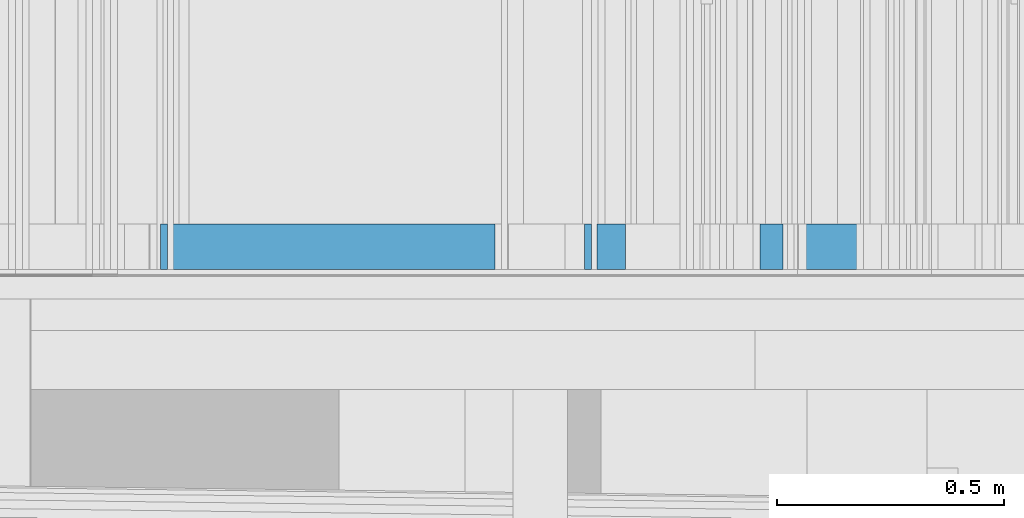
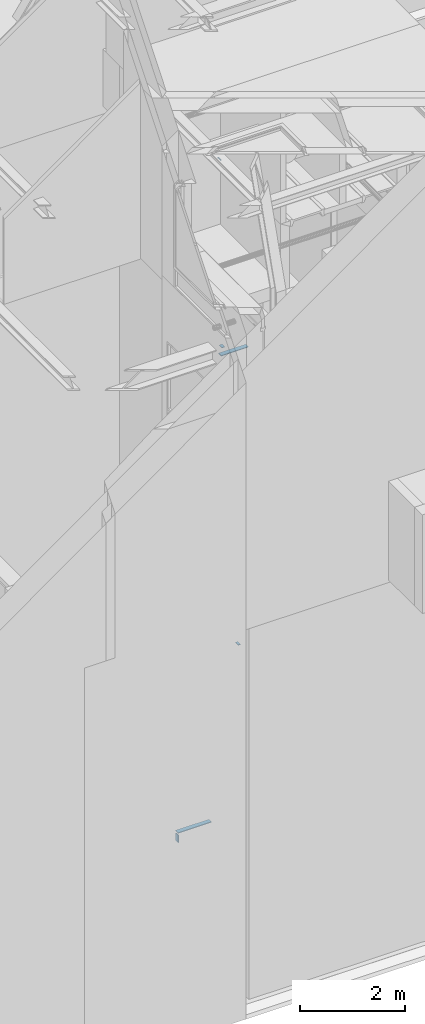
# One storey, part 178 of 583: 6 building element parts, 5 elements without a shape of their own.
"""IFC2X3 building model written with IfcOpenShell, lengths in metres."""

import ifcopenshell
import ifcopenshell.guid

model = None  # the IFC model being written
_history = None  # IfcOwnerHistory: only IFC2X3 demands one
_inside = {}  # id of a spatial element -> (the spatial element, [elements in it])
_under = {}  # id of a project, library or spatial element -> (it, [spatial elements below it])
_declared = {}  # id of a project -> (the project, [libraries it declares])
_typed = {}  # id of a type object -> (the type object, [elements of that type])
_made_of = {}  # id of a material, layer set ... -> (it, [elements and type objects made of it])


def new_model(schema):
    """Start an empty IFC model of exactly this schema.

    Asked for "IFC4X3", IfcOpenShell would pick the latest addendum, in which some entities
    have other attributes; the version numbers below select the first issue.
    IFC2X3 requires an IfcOwnerHistory on every rooted entity: one is made here for all.
    """
    global model, _history
    if schema == "IFC4X3":
        model = ifcopenshell.file(schema_version=(4, 3, 0, 0))
    else:
        model = ifcopenshell.file(schema=schema)
    _inside.clear()
    _under.clear()
    _declared.clear()
    _typed.clear()
    _made_of.clear()
    _history = None
    if model.schema == "IFC2X3":
        org = make("IfcOrganization", Name="unknown")
        user = make(
            "IfcPersonAndOrganization",
            ThePerson=make("IfcPerson", FamilyName="unknown"),
            TheOrganization=org,
        )
        app = make(
            "IfcApplication",
            ApplicationDeveloper=org,
            Version="unknown",
            ApplicationFullName="unknown",
            ApplicationIdentifier="unknown",
        )
        _history = make(
            "IfcOwnerHistory",
            OwningUser=user,
            OwningApplication=app,
            ChangeAction="ADDED",
            CreationDate=0,
        )
    return model


def make(cls, **values):
    """One entity of the class cls with the attributes given. An attribute that is None is left unset."""
    return model.create_entity(
        cls, **{name: value for name, value in values.items() if value is not None}
    )


def entity(cls, *values):
    """Any entity or typed value of the class cls, its attributes in the order of the schema. None: left unset."""
    e = model.create_entity(cls)
    for i, value in enumerate(values):
        if value is not None:
            e[i] = value
    return e


def rooted(cls, **values):
    """An entity with a GlobalId (a new one), such as an element, a storey or a relation."""
    return make(cls, GlobalId=ifcopenshell.guid.new(), OwnerHistory=_history, **values)


def si_unit(unit_type, name, prefix=None):
    """IfcSIUnit, for example si_unit("LENGTHUNIT", "METRE", prefix="MILLI")."""
    return make("IfcSIUnit", UnitType=unit_type, Prefix=prefix, Name=name)


def converted_unit(unit_type, name, factor, base, dimensions=None, offset=None):
    """IfcConversionBasedUnit, such as the inch: factor (a typed value) times the base unit."""
    return make(
        "IfcConversionBasedUnit"
        if offset is None
        else "IfcConversionBasedUnitWithOffset",
        ConversionOffset=offset,
        Dimensions=None
        if dimensions is None
        else entity("IfcDimensionalExponents", *dimensions),
        UnitType=unit_type,
        Name=name,
        ConversionFactor=make(
            "IfcMeasureWithUnit", ValueComponent=factor, UnitComponent=base
        ),
    )


def derived_unit(unit_type, elements):
    """IfcDerivedUnit: a product of units, each with its exponent."""
    return make(
        "IfcDerivedUnit",
        Elements=[
            make("IfcDerivedUnitElement", Unit=unit, Exponent=power)
            for unit, power in elements
        ],
        UnitType=unit_type,
    )


def money_unit(currency):
    """IfcMonetaryUnit."""
    return make("IfcMonetaryUnit", Currency=currency)


def assignment(units):
    """IfcUnitAssignment: the units of a project."""
    return None if units is None else make("IfcUnitAssignment", Units=units)


def point(xyz):
    """IfcCartesianPoint."""
    return None if xyz is None else make("IfcCartesianPoint", Coordinates=xyz)


def direction(xyz):
    """IfcDirection."""
    return None if xyz is None else make("IfcDirection", DirectionRatios=xyz)


def frame(location, z_axis=None, x_axis=None):
    """IfcAxis2Placement3D, a coordinate frame: its origin and axes. An axis left out is left unset."""
    return make(
        "IfcAxis2Placement3D",
        Location=point(location),
        Axis=direction(z_axis),
        RefDirection=direction(x_axis),
    )


def frame_2d(location, x_axis=None):
    """IfcAxis2Placement2D, a coordinate frame in the plane: its origin and x axis."""
    return make(
        "IfcAxis2Placement2D", Location=point(location), RefDirection=direction(x_axis)
    )


def origin_with_axes():
    """The frame at (0, 0, 0) with the z axis (0, 0, 1) and the x axis (1, 0, 0) written out."""
    return frame((0.0, 0.0, 0.0), z_axis=(0.0, 0.0, 1.0), x_axis=(1.0, 0.0, 0.0))


def place(relative_to, where):
    """IfcLocalPlacement: puts the frame where relative to a parent placement (None: the world)."""
    return make(
        "IfcLocalPlacement", PlacementRelTo=relative_to, RelativePlacement=where
    )


def context(
    kind, dimensions, precision=None, world=None, true_north=None, identifier=None
):
    """IfcGeometricRepresentationContext, for example the 3D "Model" context."""
    return make(
        "IfcGeometricRepresentationContext",
        ContextIdentifier=identifier,
        ContextType=kind,
        CoordinateSpaceDimension=dimensions,
        Precision=precision,
        WorldCoordinateSystem=world,
        TrueNorth=true_north,
    )


def subcontext(parent, identifier, kind, view, scale=None):
    """IfcGeometricRepresentationSubContext, for example "Body" below "Model"."""
    return make(
        "IfcGeometricRepresentationSubContext",
        ContextIdentifier=identifier,
        ContextType=kind,
        ParentContext=parent,
        TargetScale=scale,
        TargetView=view,
    )


def project(units=None, contexts=None):
    """IfcProject with its units and contexts."""
    return rooted(
        "IfcProject",
        Name="project",
        RepresentationContexts=contexts,
        UnitsInContext=assignment(units),
    )


def spatial(cls, under=None, at=None, **own):
    """A site, building, storey or space (cls), placed at a placement, below another one or the project."""
    s = rooted(cls, ObjectPlacement=at, **own)
    if under is not None:
        _under.setdefault(under.id(), (under, []))[1].append(s)
    return s


def polyline(points):
    """IfcPolyline through the points."""
    return make("IfcPolyline", Points=[point(p) for p in points])


def profile(cls, at=None, kind="AREA", **sizes):
    """A parametric profile (cls). Its sizes go by their IFC names, for example OverallWidth=200.0."""
    return make(cls, ProfileType=kind, Position=at, **sizes)


def rectangle(**sizes):
    """IfcRectangleProfileDef."""
    return profile("IfcRectangleProfileDef", **sizes)


def outline(outer, holes=None, kind="AREA"):
    """IfcArbitraryClosedProfileDef: a profile drawn as a closed curve; with holes, ...WithVoids."""
    if holes is None:
        return make("IfcArbitraryClosedProfileDef", ProfileType=kind, OuterCurve=outer)
    return make(
        "IfcArbitraryProfileDefWithVoids",
        ProfileType=kind,
        OuterCurve=outer,
        InnerCurves=holes,
    )


def extrude(swept, where, along, depth):
    """IfcExtrudedAreaSolid: the profile swept, set in the frame where, extruded along a direction by depth."""
    return make(
        "IfcExtrudedAreaSolid",
        SweptArea=swept,
        Position=where,
        ExtrudedDirection=direction(along),
        Depth=depth,
    )


def shape(context_of_items, identifier, shape_type, items):
    """IfcShapeRepresentation: the items that make up one representation, for example the "Body"."""
    return make(
        "IfcShapeRepresentation",
        ContextOfItems=context_of_items,
        RepresentationIdentifier=identifier,
        RepresentationType=shape_type,
        Items=items,
    )


def material(Name=None, Category=None):
    """IfcMaterial."""
    return make("IfcMaterial", Name=Name, Category=Category)


def made_of(thing, what):
    """Note that an element or type object is made of a material, layer set ...; save() writes the relation."""
    if what is not None:
        _made_of.setdefault(what.id(), (what, []))[1].append(thing)
    return thing


def type_object(cls, material=None, **own):
    """A type object (cls), such as IfcWallType, which elements share."""
    return made_of(rooted(cls, **own), material)


def element(
    cls,
    number,
    at=None,
    inside=None,
    cuts=None,
    type_object=None,
    material=None,
    context=None,
    identifier="Body",
    shape_type=None,
    held_by="IfcProductDefinitionShape",
    body=None,
    shapes=None,
    **own,
):
    """One element of the class cls, such as IfcWall. Its Tag is "e" and its number.

    at: its placement. inside: the storey or other place that contains it. cuts: it is an
    opening in that element (IfcRelVoidsElement). A single representation is given by context,
    identifier, shape_type and body (its items); several are given by shapes. held_by: the class
    of the entity that holds the representations. save() writes the other relations.
    """
    e = rooted(cls, Tag="e%d" % number, ObjectPlacement=at, **own)
    if body is not None:
        shapes = [shape(context, identifier, shape_type, body)]
    if shapes is not None:
        e.Representation = make(held_by, Representations=shapes)
    if inside is not None:
        _inside.setdefault(inside.id(), (inside, []))[1].append(e)
    if cuts is not None:
        rooted(
            "IfcRelVoidsElement", RelatingBuildingElement=cuts, RelatedOpeningElement=e
        )
    if type_object is not None:
        _typed.setdefault(type_object.id(), (type_object, []))[1].append(e)
    return made_of(e, material)


def aggregate(whole, parts):
    """IfcRelAggregates: a whole, such as a stair, and the parts it consists of."""
    return rooted("IfcRelAggregates", RelatingObject=whole, RelatedObjects=parts)


def save(model, path):
    """Write the relations noted so far, then the file.

    IfcRelAggregates (storeys below a building ...), IfcRelContainedInSpatialStructure (elements
    in a storey), IfcRelDefinesByType, IfcRelAssociatesMaterial and IfcRelDeclares: one each for
    every whole, place, type object, material and project.
    """
    for whole, parts in _under.values():
        aggregate(whole, parts)
    for where, things in _inside.values():
        rooted(
            "IfcRelContainedInSpatialStructure",
            RelatedElements=things,
            RelatingStructure=where,
        )
    for kind, things in _typed.values():
        rooted("IfcRelDefinesByType", RelatedObjects=things, RelatingType=kind)
    for what, things in _made_of.values():
        rooted("IfcRelAssociatesMaterial", RelatedObjects=things, RelatingMaterial=what)
    for by, libraries in _declared.values():
        rooted("IfcRelDeclares", RelatingContext=by, RelatedDefinitions=libraries)
    model.write(path)


model = new_model("IFC2X3")

# Units and contexts
model_context = context("Model", 3, precision=1e-05, world=origin_with_axes(), true_north=direction((0.0, 1.0)))
body_context = subcontext(model_context, "Body", "Model", "MODEL_VIEW", scale=1.0)
ifc_project = project(units=[si_unit("LENGTHUNIT", "METRE"), si_unit("AREAUNIT", "SQUARE_METRE"), si_unit("VOLUMEUNIT", "CUBIC_METRE"), si_unit("ABSORBEDDOSEUNIT", "GRAY"), si_unit("AMOUNTOFSUBSTANCEUNIT", "MOLE"), si_unit("DOSEEQUIVALENTUNIT", "SIEVERT"), si_unit("ELECTRICCAPACITANCEUNIT", "FARAD"), si_unit("ELECTRICCHARGEUNIT", "COULOMB"), si_unit("ELECTRICCONDUCTANCEUNIT", "SIEMENS"), si_unit("ELECTRICCURRENTUNIT", "AMPERE"), si_unit("ELECTRICRESISTANCEUNIT", "OHM"), si_unit("ELECTRICVOLTAGEUNIT", "VOLT"), si_unit("ENERGYUNIT", "JOULE"), si_unit("FORCEUNIT", "NEWTON"), si_unit("FREQUENCYUNIT", "HERTZ"), si_unit("ILLUMINANCEUNIT", "LUX"), si_unit("INDUCTANCEUNIT", "HENRY"), si_unit("LUMINOUSFLUXUNIT", "LUMEN"), si_unit("LUMINOUSINTENSITYUNIT", "CANDELA"), si_unit("MAGNETICFLUXDENSITYUNIT", "TESLA"), si_unit("MAGNETICFLUXUNIT", "WEBER"), si_unit("MASSUNIT", "GRAM"), converted_unit("PLANEANGLEUNIT", "degree", entity("IfcReal", 0.0174532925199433), si_unit("PLANEANGLEUNIT", "RADIAN"), dimensions=[0, 0, 0, 0, 0, 0, 0]), si_unit("POWERUNIT", "WATT"), si_unit("PRESSUREUNIT", "PASCAL"), si_unit("RADIOACTIVITYUNIT", "BECQUEREL"), si_unit("SOLIDANGLEUNIT", "STERADIAN"), si_unit("THERMODYNAMICTEMPERATUREUNIT", "KELVIN"), si_unit("TIMEUNIT", "SECOND"), derived_unit("ACCELERATIONUNIT", [(si_unit("LENGTHUNIT", "METRE"), 1), (si_unit("TIMEUNIT", "SECOND"), -2)]), derived_unit("ANGULARVELOCITYUNIT", [(converted_unit("PLANEANGLEUNIT", "degree", entity("IfcReal", 0.0174532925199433), si_unit("PLANEANGLEUNIT", "RADIAN"), dimensions=[0, 0, 0, 0, 0, 0, 0]), 1), (si_unit("TIMEUNIT", "SECOND"), -1)]), derived_unit("CURVATUREUNIT", [(converted_unit("PLANEANGLEUNIT", "degree", entity("IfcReal", 0.0174532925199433), si_unit("PLANEANGLEUNIT", "RADIAN"), dimensions=[0, 0, 0, 0, 0, 0, 0]), 1), (si_unit("LENGTHUNIT", "METRE"), -1)]), derived_unit("DYNAMICVISCOSITYUNIT", [(si_unit("PRESSUREUNIT", "PASCAL"), 1), (si_unit("TIMEUNIT", "SECOND"), 1)]), derived_unit("HEATFLUXDENSITYUNIT", [(si_unit("POWERUNIT", "WATT"), 1), (si_unit("LENGTHUNIT", "METRE"), -2)]), derived_unit("HEATINGVALUEUNIT", [(si_unit("ENERGYUNIT", "JOULE"), 1), (si_unit("MASSUNIT", "GRAM"), -1)]), derived_unit("INTEGERCOUNTRATEUNIT", [(si_unit("TIMEUNIT", "SECOND"), -1)]), derived_unit("IONCONCENTRATIONUNIT", [(si_unit("MASSUNIT", "GRAM"), 1), (si_unit("VOLUMEUNIT", "CUBIC_METRE"), -1)]), derived_unit("ISOTHERMALMOISTURECAPACITYUNIT", [(si_unit("VOLUMEUNIT", "CUBIC_METRE"), 1), (si_unit("MASSUNIT", "GRAM"), -1)]), derived_unit("KINEMATICVISCOSITYUNIT", [(si_unit("AREAUNIT", "SQUARE_METRE"), 1), (si_unit("TIMEUNIT", "SECOND"), -1)]), derived_unit("LINEARFORCEUNIT", [(si_unit("FORCEUNIT", "NEWTON"), 1), (si_unit("LENGTHUNIT", "METRE"), -1)]), derived_unit("LINEARMOMENTUNIT", [(si_unit("FORCEUNIT", "NEWTON"), 1), (si_unit("LENGTHUNIT", "METRE"), -1)]), derived_unit("LINEARSTIFFNESSUNIT", [(si_unit("FORCEUNIT", "NEWTON"), 1), (si_unit("LENGTHUNIT", "METRE"), -1)]), derived_unit("LINEARVELOCITYUNIT", [(si_unit("LENGTHUNIT", "METRE"), 1), (si_unit("TIMEUNIT", "SECOND"), -1)]), derived_unit("LUMINOUSINTENSITYDISTRIBUTIONUNIT", [(si_unit("LUMINOUSINTENSITYUNIT", "CANDELA"), 1), (si_unit("LUMINOUSFLUXUNIT", "LUMEN"), -1)]), derived_unit("MASSDENSITYUNIT", [(si_unit("MASSUNIT", "GRAM"), 1), (si_unit("VOLUMEUNIT", "CUBIC_METRE"), -1)]), derived_unit("MASSFLOWRATEUNIT", [(si_unit("MASSUNIT", "GRAM"), 1), (si_unit("TIMEUNIT", "SECOND"), -1)]), derived_unit("MASSPERLENGTHUNIT", [(si_unit("MASSUNIT", "GRAM"), 1), (si_unit("LENGTHUNIT", "METRE"), -1)]), derived_unit("MODULUSOFELASTICITYUNIT", [(si_unit("FORCEUNIT", "NEWTON"), 1), (si_unit("AREAUNIT", "SQUARE_METRE"), -1)]), derived_unit("MODULUSOFLINEARSUBGRADEREACTIONUNIT", [(si_unit("FORCEUNIT", "NEWTON"), 1), (si_unit("LENGTHUNIT", "METRE"), -2)]), derived_unit("MODULUSOFROTATIONALSUBGRADEREACTIONUNIT", [(si_unit("FORCEUNIT", "NEWTON"), 1), (si_unit("LENGTHUNIT", "METRE"), 1)]), derived_unit("MODULUSOFSUBGRADEREACTIONUNIT", [(si_unit("FORCEUNIT", "NEWTON"), 1), (si_unit("VOLUMEUNIT", "CUBIC_METRE"), -1)]), derived_unit("MOISTUREDIFFUSIVITYUNIT", [(si_unit("VOLUMEUNIT", "CUBIC_METRE"), 1), (si_unit("TIMEUNIT", "SECOND"), -1)]), derived_unit("MOLECULARWEIGHTUNIT", [(si_unit("MASSUNIT", "GRAM"), 1), (si_unit("AMOUNTOFSUBSTANCEUNIT", "MOLE"), -1)]), derived_unit("PLANARFORCEUNIT", [(si_unit("FORCEUNIT", "NEWTON"), 1), (si_unit("LENGTHUNIT", "METRE"), -2)]), derived_unit("ROTATIONALFREQUENCYUNIT", [(si_unit("TIMEUNIT", "SECOND"), -1)]), derived_unit("ROTATIONALMASSUNIT", [(si_unit("MASSUNIT", "GRAM"), 1), (si_unit("LENGTHUNIT", "METRE"), 2)]), derived_unit("ROTATIONALSTIFFNESSUNIT", [(si_unit("FORCEUNIT", "NEWTON"), 1), (si_unit("LENGTHUNIT", "METRE"), 1), (converted_unit("PLANEANGLEUNIT", "degree", entity("IfcReal", 0.0174532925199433), si_unit("PLANEANGLEUNIT", "RADIAN"), dimensions=[0, 0, 0, 0, 0, 0, 0]), -1)]), derived_unit("SECTIONAREAINTEGRALUNIT", [(si_unit("LENGTHUNIT", "METRE"), 5)]), derived_unit("SECTIONMODULUSUNIT", [(si_unit("LENGTHUNIT", "METRE"), 3)]), derived_unit("SHEARMODULUSUNIT", [(si_unit("FORCEUNIT", "NEWTON"), 1), (si_unit("AREAUNIT", "SQUARE_METRE"), -1)]), derived_unit("SOUNDPOWERUNIT", [(si_unit("ENERGYUNIT", "JOULE"), 1), (si_unit("TIMEUNIT", "SECOND"), -1)]), derived_unit("SPECIFICHEATCAPACITYUNIT", [(si_unit("FORCEUNIT", "NEWTON"), 1), (si_unit("MASSUNIT", "GRAM"), -1), (si_unit("THERMODYNAMICTEMPERATUREUNIT", "KELVIN"), -1)]), derived_unit("TEMPERATUREGRADIENTUNIT", [(si_unit("THERMODYNAMICTEMPERATUREUNIT", "KELVIN"), 1), (si_unit("LENGTHUNIT", "METRE"), -1)]), derived_unit("THERMALADMITTANCEUNIT", [(si_unit("POWERUNIT", "WATT"), 1), (si_unit("AREAUNIT", "SQUARE_METRE"), -1), (si_unit("THERMODYNAMICTEMPERATUREUNIT", "KELVIN"), -1)]), derived_unit("THERMALCONDUCTANCEUNIT", [(si_unit("POWERUNIT", "WATT"), 1), (si_unit("LENGTHUNIT", "METRE"), -1), (si_unit("THERMODYNAMICTEMPERATUREUNIT", "KELVIN"), -1)]), derived_unit("THERMALEXPANSIONCOEFFICIENTUNIT", [(si_unit("THERMODYNAMICTEMPERATUREUNIT", "KELVIN"), -1)]), derived_unit("THERMALRESISTANCEUNIT", [(si_unit("AREAUNIT", "SQUARE_METRE"), 1), (si_unit("POWERUNIT", "WATT"), -1)]), derived_unit("THERMALTRANSMITTANCEUNIT", [(si_unit("POWERUNIT", "WATT"), 1), (si_unit("AREAUNIT", "SQUARE_METRE"), -1), (si_unit("THERMODYNAMICTEMPERATUREUNIT", "KELVIN"), -1)]), derived_unit("TORQUEUNIT", [(si_unit("FORCEUNIT", "NEWTON"), 1), (si_unit("LENGTHUNIT", "METRE"), 1)]), derived_unit("VAPORPERMEABILITYUNIT", [(si_unit("MASSUNIT", "GRAM"), 1), (si_unit("TIMEUNIT", "SECOND"), -1)]), derived_unit("VOLUMETRICFLOWRATEUNIT", [(si_unit("VOLUMEUNIT", "CUBIC_METRE"), 1), (si_unit("TIMEUNIT", "SECOND"), -1)]), derived_unit("WARPINGCONSTANTUNIT", [(si_unit("LENGTHUNIT", "METRE"), 6)]), derived_unit("WARPINGMOMENTUNIT", [(si_unit("FORCEUNIT", "NEWTON"), 1), (si_unit("LENGTHUNIT", "METRE"), 2)]), money_unit("GBP")], contexts=[model_context])

# Site, building, storey
site_placement = place(None, origin_with_axes())
site = spatial("IfcSite", under=ifc_project, at=site_placement, Name="Site", CompositionType="ELEMENT")
building_placement = place(site_placement, origin_with_axes())
building = spatial("IfcBuilding", under=site, at=building_placement, Name="Building01", CompositionType="ELEMENT")
storey_placement = place(building_placement, frame((0.0, 0.0, 20.78), z_axis=(0.0, 0.0, 1.0), x_axis=(1.0, 0.0, 0.0)))
storey = spatial("IfcBuildingStorey", under=building, at=storey_placement, Name="RL", CompositionType="ELEMENT", Elevation=20.78)

# Wall, building element parts
wall_type_1 = type_object("IfcWallType", Name="SHE_A-Walls_Type03a_BlockworkWall_170mm", PredefinedType="NOTDEFINED")
wall_1_placement = place(storey_placement, frame((6.275, 5.15, -9.635), z_axis=(0.0, 1.0, 0.0), x_axis=(1.0, 0.0, 0.0)))
wall_1 = element("IfcWall", 1, at=wall_1_placement, inside=storey, type_object=wall_type_1, Name="4B", ObjectType="SHE_A-Walls_Type03a_BlockworkWall_170mm")
ifc_material = material(Name="A_BSUK_Walls_Timber")
placement = place(wall_1_placement, origin_with_axes())
building_element_part_1 = element("IfcBuildingElementPart", 2, at=placement, material=ifc_material, Name="2", context=body_context, shape_type="SweptSolid", body=[
    extrude(outline(polyline([(0.56, 0.03), (-0.025, 0.03), (-0.025, 0.015), (0.575, 0.015), (0.56, 0.03)])), frame((0.0, 0.0, 0.015), z_axis=(0.0, 0.0, 1.0), x_axis=(1.0, 0.0, 0.0)), (0.0, 0.0, 1.0), 0.1),
])
building_element_part_2 = element("IfcBuildingElementPart", 3, at=placement, material=ifc_material, Name="5", context=body_context, shape_type="SweptSolid", body=[
    extrude(rectangle(XDim=0.062, YDim=0.015, at=frame_2d((0.019, -0.1625), x_axis=(-1.0, 0.0))), frame((0.0, 0.0, 0.015), z_axis=(0.0, 0.0, 1.0), x_axis=(1.0, 0.0, 0.0)), (0.0, 0.0, 1.0), 0.1),
])
aggregate(wall_1, [building_element_part_1, building_element_part_2])

# Wall, building element part
wall_type_2 = type_object("IfcWallType", Name="SHE_A-Walls_Type05a_Partition_95mm_tall", PredefinedType="NOTDEFINED")
wall_2_placement = place(storey_placement, frame((6.571475, 5.15, -16.57427), z_axis=(0.0, 1.0, 0.0), x_axis=(1.0, 0.0, 0.0)))
wall_2 = element("IfcWall", 4, at=wall_2_placement, inside=storey, type_object=wall_type_2, Name="5A", ObjectType="SHE_A-Walls_Type05a_Partition_95mm_tall")
building_element_part_3_placement = place(wall_2_placement, origin_with_axes())
building_element_part_3 = element("IfcBuildingElementPart", 5, at=building_element_part_3_placement, material=ifc_material, Name="3", context=body_context, shape_type="SweptSolid", body=[
    extrude(rectangle(XDim=0.015, YDim=0.050695, at=frame_2d((0.075347, -0.0425), x_axis=(0.0, -1.0))), frame((0.0, 0.0, 0.015), z_axis=(0.0, 0.0, 1.0), x_axis=(1.0, 0.0, 0.0)), (0.0, 0.0, 1.0), 0.1),
])
aggregate(wall_2, [building_element_part_3])

wall_type_3 = type_object("IfcWallType", Name="SHE_A-Walls_Type04a_BlockworkWall_130mm", PredefinedType="NOTDEFINED")
wall_3_placement = place(storey_placement, frame((8.665, 5.15, -5.065), z_axis=(0.0, 1.0, 0.0), x_axis=(-1.0, 0.0, 0.0)))
wall_3 = element("IfcWall", 6, at=wall_3_placement, inside=storey, type_object=wall_type_3, Name="4A", ObjectType="SHE_A-Walls_Type04a_BlockworkWall_130mm")
building_element_part_4_placement = place(wall_3_placement, origin_with_axes())
building_element_part_4 = element("IfcBuildingElementPart", 7, at=building_element_part_4_placement, material=ifc_material, Name="5", context=body_context, shape_type="SweptSolid", body=[
    extrude(rectangle(XDim=0.015, YDim=0.015, at=frame_2d((2.4225, -0.0225), x_axis=(0.0, -1.0))), frame((0.0, 0.0, 0.015), z_axis=(0.0, 0.0, 1.0), x_axis=(1.0, 0.0, 0.0)), (0.0, 0.0, 1.0), 0.1),
])
aggregate(wall_3, [building_element_part_4])

wall_type_4 = type_object("IfcWallType", Name="SHE_A-Walls_Type06d_ExternalWallInsulation_48mm", PredefinedType="NOTDEFINED")
wall_4_placement = place(storey_placement, frame((6.1, 5.15, -20.51), z_axis=(0.0, 1.0, 0.0), x_axis=(-1.0, 0.0, 0.0)))
wall_4 = element("IfcWall", 8, at=wall_4_placement, inside=storey, type_object=wall_type_4, Name="6D", ObjectType="SHE_A-Walls_Type06d_ExternalWallInsulation_48mm")
building_element_part_5_placement = place(wall_4_placement, origin_with_axes())
building_element_part_5 = element("IfcBuildingElementPart", 9, at=building_element_part_5_placement, material=ifc_material, Name="2", context=body_context, shape_type="SweptSolid", body=[
    extrude(rectangle(XDim=0.737, YDim=0.015, at=frame_2d((0.4315, 0.0555), x_axis=(-1.0, 0.0))), frame((0.0, 0.0, 0.015), z_axis=(0.0, 0.0, 1.0), x_axis=(1.0, 0.0, 0.0)), (0.0, 0.0, 1.0), 0.1),
])
aggregate(wall_4, [building_element_part_5])

wall_5_placement = place(storey_placement, frame((5.363, 5.15, -20.51), z_axis=(0.0, 1.0, 0.0), x_axis=(0.0, 0.0, -1.0)))
wall_5 = element("IfcWall", 10, at=wall_5_placement, inside=storey, type_object=wall_type_4, Name="6D", ObjectType="SHE_A-Walls_Type06d_ExternalWallInsulation_48mm")
building_element_part_6_placement = place(wall_5_placement, origin_with_axes())
building_element_part_6 = element("IfcBuildingElementPart", 11, at=building_element_part_6_placement, material=ifc_material, Name="2", context=body_context, shape_type="SweptSolid", body=[
    extrude(rectangle(XDim=0.17, YDim=0.015, at=frame_2d((0.085, 0.0555), x_axis=(1.0, 0.0))), frame((0.0, 0.0, 0.015), z_axis=(0.0, 0.0, 1.0), x_axis=(1.0, 0.0, 0.0)), (0.0, 0.0, 1.0), 0.1),
])
aggregate(wall_5, [building_element_part_6])

save(model, "model.ifc")
